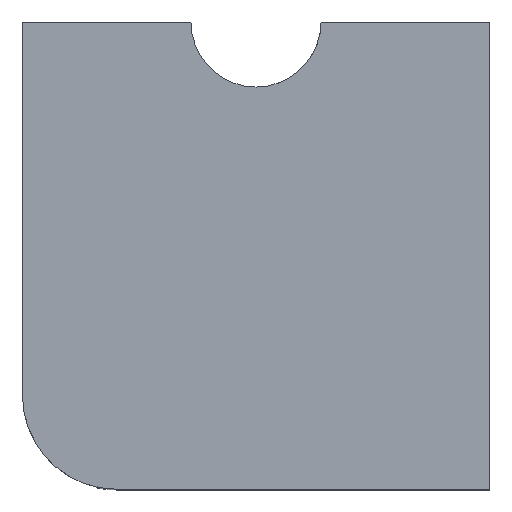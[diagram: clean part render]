
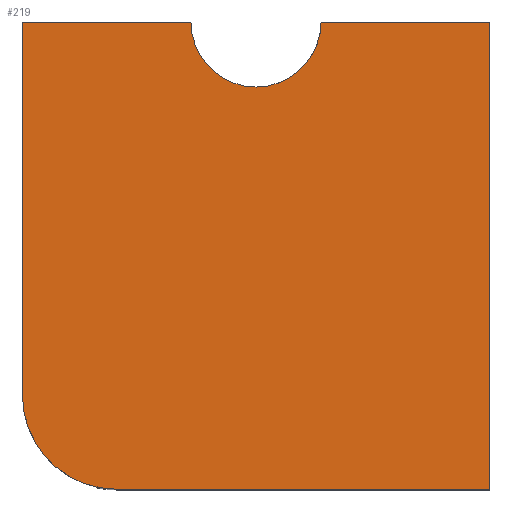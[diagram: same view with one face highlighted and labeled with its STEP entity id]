
A CAD part, top view. The second image highlights one B-rep face of the part: STEP entity #219.
In plain terms, the highlighted planar face has unit normal (0, 0, 1).
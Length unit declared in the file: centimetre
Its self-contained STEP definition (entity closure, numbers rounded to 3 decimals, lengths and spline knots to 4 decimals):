
#27 = LINE ( 'NONE', #769, #897 ) ;
#35 = EDGE_CURVE ( 'NONE', #137, #407, #828, .T. ) ;
#39 = EDGE_CURVE ( 'NONE', #1126, #137, #91, .T. ) ;
#60 = CARTESIAN_POINT ( 'NONE',  ( 1000., 1000., 1000. ) ) ;
#69 = EDGE_CURVE ( 'NONE', #1127, #360, #81, .T. ) ;
#81 = CIRCLE ( 'NONE', #272, 139.1408 ) ;
#82 = CARTESIAN_POINT ( 'NONE',  ( 639.1408, 1000., 1000. ) ) ;
#88 = CARTESIAN_POINT ( 'NONE',  ( 1000., 0., 1000. ) ) ;
#91 = LINE ( 'NONE', #843, #487 ) ;
#97 = PLANE ( 'NONE',  #1166 ) ;
#136 = EDGE_CURVE ( 'NONE', #735, #1127, #27, .T. ) ;
#137 = VERTEX_POINT ( 'NONE', #869 ) ;
#138 = LINE ( 'NONE', #1177, #427 ) ;
#155 = EDGE_CURVE ( 'NONE', #407, #863, #929, .T. ) ;
#179 = DIRECTION ( 'NONE',  ( 1., 0., 0. ) ) ;
#181 = DIRECTION ( 'NONE',  ( 0., 0., 1. ) ) ;
#212 = LINE ( 'NONE', #478, #1144 ) ;
#218 = CARTESIAN_POINT ( 'NONE',  ( 201.4637, 0., 1000. ) ) ;
#219 = ADVANCED_FACE ( 'NONE', ( #440 ), #97, .T. ) ;
#272 = AXIS2_PLACEMENT_3D ( 'NONE', #1212, #363, #384 ) ;
#291 = AXIS2_PLACEMENT_3D ( 'NONE', #838, #181, #549 ) ;
#340 = ORIENTED_EDGE ( 'NONE', *, *, #69, .T. ) ;
#355 = CARTESIAN_POINT ( 'NONE',  ( 0., 1000., 1000. ) ) ;
#360 = VERTEX_POINT ( 'NONE', #704 ) ;
#363 = DIRECTION ( 'NONE',  ( 0., 0., -1. ) ) ;
#370 = VECTOR ( 'NONE', #179, 100. ) ;
#384 = DIRECTION ( 'NONE',  ( -1., 0., 0. ) ) ;
#389 = CARTESIAN_POINT ( 'NONE',  ( 0., 0., 1000. ) ) ;
#407 = VERTEX_POINT ( 'NONE', #218 ) ;
#427 = VECTOR ( 'NONE', #805, 100. ) ;
#436 = ORIENTED_EDGE ( 'NONE', *, *, #155, .T. ) ;
#440 = FACE_OUTER_BOUND ( 'NONE', #911, .T. ) ;
#453 = EDGE_CURVE ( 'NONE', #863, #735, #138, .T. ) ;
#454 = DIRECTION ( 'NONE',  ( 0., -1., 0. ) ) ;
#478 = CARTESIAN_POINT ( 'NONE',  ( 0., 1000., 1000. ) ) ;
#481 = DIRECTION ( 'NONE',  ( -1., 0., 0. ) ) ;
#487 = VECTOR ( 'NONE', #454, 100. ) ;
#549 = DIRECTION ( 'NONE',  ( 1., 0., 0. ) ) ;
#559 = ORIENTED_EDGE ( 'NONE', *, *, #39, .T. ) ;
#619 = ORIENTED_EDGE ( 'NONE', *, *, #35, .T. ) ;
#704 = CARTESIAN_POINT ( 'NONE',  ( 360.8592, 1000., 1000. ) ) ;
#730 = CARTESIAN_POINT ( 'NONE',  ( 0., 0., 1000. ) ) ;
#735 = VERTEX_POINT ( 'NONE', #60 ) ;
#758 = ORIENTED_EDGE ( 'NONE', *, *, #790, .T. ) ;
#769 = CARTESIAN_POINT ( 'NONE',  ( 0., 1000., 1000. ) ) ;
#781 = DIRECTION ( 'NONE',  ( -1., 0., 0. ) ) ;
#790 = EDGE_CURVE ( 'NONE', #360, #1126, #212, .T. ) ;
#805 = DIRECTION ( 'NONE',  ( 0., 1., 0. ) ) ;
#827 = ORIENTED_EDGE ( 'NONE', *, *, #453, .T. ) ;
#828 = CIRCLE ( 'NONE', #291, 201.4637 ) ;
#838 = CARTESIAN_POINT ( 'NONE',  ( 201.4637, 201.4637, 1000. ) ) ;
#843 = CARTESIAN_POINT ( 'NONE',  ( 0., 1000., 1000. ) ) ;
#863 = VERTEX_POINT ( 'NONE', #88 ) ;
#869 = CARTESIAN_POINT ( 'NONE',  ( 0., 201.4637, 1000. ) ) ;
#897 = VECTOR ( 'NONE', #481, 100. ) ;
#911 = EDGE_LOOP ( 'NONE', ( #340, #758, #559, #619, #436, #827, #1112 ) ) ;
#929 = LINE ( 'NONE', #389, #370 ) ;
#1103 = DIRECTION ( 'NONE',  ( 1., 0., 0. ) ) ;
#1112 = ORIENTED_EDGE ( 'NONE', *, *, #136, .T. ) ;
#1126 = VERTEX_POINT ( 'NONE', #355 ) ;
#1127 = VERTEX_POINT ( 'NONE', #82 ) ;
#1144 = VECTOR ( 'NONE', #781, 100. ) ;
#1166 = AXIS2_PLACEMENT_3D ( 'NONE', #730, #1205, #1103 ) ;
#1177 = CARTESIAN_POINT ( 'NONE',  ( 1000., 1000., 1000. ) ) ;
#1205 = DIRECTION ( 'NONE',  ( 0., 0., 1. ) ) ;
#1212 = CARTESIAN_POINT ( 'NONE',  ( 500., 1000., 1000. ) ) ;
